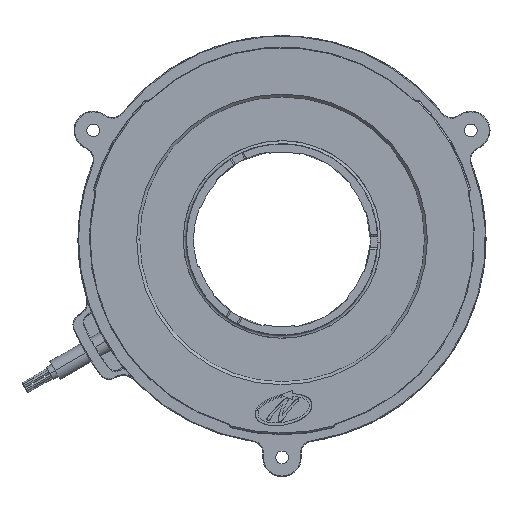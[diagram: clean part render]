
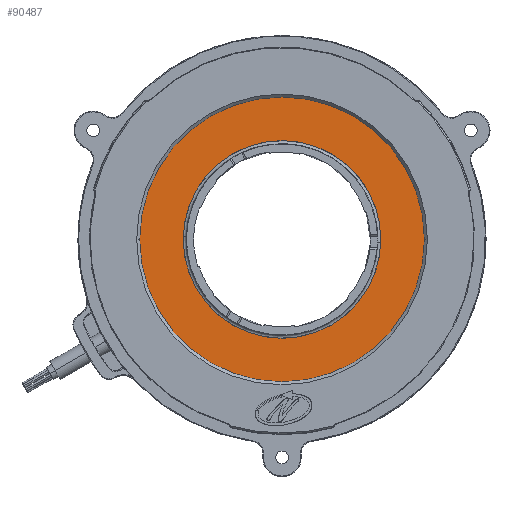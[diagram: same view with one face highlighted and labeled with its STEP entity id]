
A CAD part, front view. The second image highlights one B-rep face of the part: STEP entity #90487.
In plain terms, the highlighted planar face has unit normal (0, -1, 0).
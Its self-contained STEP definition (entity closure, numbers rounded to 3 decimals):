
#5454 = ORIENTED_EDGE ( 'NONE', *, *, #69968, .F. ) ;
#5853 = AXIS2_PLACEMENT_3D ( 'NONE', #22730, #92948, #57073 ) ;
#5949 = DIRECTION ( 'NONE',  ( -1., 0., 0. ) ) ;
#6389 = EDGE_CURVE ( 'NONE', #84331, #48801, #42429, .T. ) ;
#13281 = CARTESIAN_POINT ( 'NONE',  ( 0., 0.5, 0. ) ) ;
#15041 = VERTEX_POINT ( 'NONE', #77351 ) ;
#22730 = CARTESIAN_POINT ( 'NONE',  ( 0., 0.5, 0. ) ) ;
#25578 = DIRECTION ( 'NONE',  ( -1., 0., 0. ) ) ;
#25974 = CARTESIAN_POINT ( 'NONE',  ( 24.5, 0.5, 0. ) ) ;
#34022 = DIRECTION ( 'NONE',  ( 0., 1., 0. ) ) ;
#37517 = AXIS2_PLACEMENT_3D ( 'NONE', #76705, #34022, #25578 ) ;
#41064 = EDGE_CURVE ( 'NONE', #48801, #84331, #111007, .T. ) ;
#42228 = ORIENTED_EDGE ( 'NONE', *, *, #41064, .T. ) ;
#42429 = CIRCLE ( 'NONE', #90831, 17. ) ;
#42795 = PLANE ( 'NONE',  #67022 ) ;
#44696 = CARTESIAN_POINT ( 'NONE',  ( 0., 0.5, 0. ) ) ;
#46571 = CARTESIAN_POINT ( 'NONE',  ( 17., 0.5, 0. ) ) ;
#48801 = VERTEX_POINT ( 'NONE', #46571 ) ;
#52779 = EDGE_LOOP ( 'NONE', ( #82618, #42228 ) ) ;
#57073 = DIRECTION ( 'NONE',  ( -1., 0., 0. ) ) ;
#59967 = AXIS2_PLACEMENT_3D ( 'NONE', #44696, #71647, #63811 ) ;
#63811 = DIRECTION ( 'NONE',  ( -1., 0., 0. ) ) ;
#66944 = CIRCLE ( 'NONE', #5853, 24.5 ) ;
#66986 = FACE_BOUND ( 'NONE', #52779, .T. ) ;
#67022 = AXIS2_PLACEMENT_3D ( 'NONE', #92232, #85446, #109616 ) ;
#69968 = EDGE_CURVE ( 'NONE', #15041, #84071, #66944, .T. ) ;
#71647 = DIRECTION ( 'NONE',  ( 0., 1., 0. ) ) ;
#72075 = EDGE_CURVE ( 'NONE', #84071, #15041, #102983, .T. ) ;
#76705 = CARTESIAN_POINT ( 'NONE',  ( 0., 0.5, 0. ) ) ;
#77351 = CARTESIAN_POINT ( 'NONE',  ( -24.5, 0.5, 0. ) ) ;
#82618 = ORIENTED_EDGE ( 'NONE', *, *, #6389, .T. ) ;
#83234 = FACE_OUTER_BOUND ( 'NONE', #85506, .T. ) ;
#83455 = DIRECTION ( 'NONE',  ( 0., 1., 0. ) ) ;
#84071 = VERTEX_POINT ( 'NONE', #25974 ) ;
#84331 = VERTEX_POINT ( 'NONE', #111194 ) ;
#85446 = DIRECTION ( 'NONE',  ( 0., 1., 0. ) ) ;
#85506 = EDGE_LOOP ( 'NONE', ( #104390, #5454 ) ) ;
#90487 = ADVANCED_FACE ( 'NONE', ( #83234, #66986 ), #42795, .F. ) ;
#90831 = AXIS2_PLACEMENT_3D ( 'NONE', #13281, #83455, #5949 ) ;
#92232 = CARTESIAN_POINT ( 'NONE',  ( 24.5, 0.5, 0. ) ) ;
#92948 = DIRECTION ( 'NONE',  ( 0., 1., 0. ) ) ;
#102983 = CIRCLE ( 'NONE', #59967, 24.5 ) ;
#104390 = ORIENTED_EDGE ( 'NONE', *, *, #72075, .F. ) ;
#109616 = DIRECTION ( 'NONE',  ( -1., 0., 0. ) ) ;
#111007 = CIRCLE ( 'NONE', #37517, 17. ) ;
#111194 = CARTESIAN_POINT ( 'NONE',  ( -17., 0.5, 0. ) ) ;
